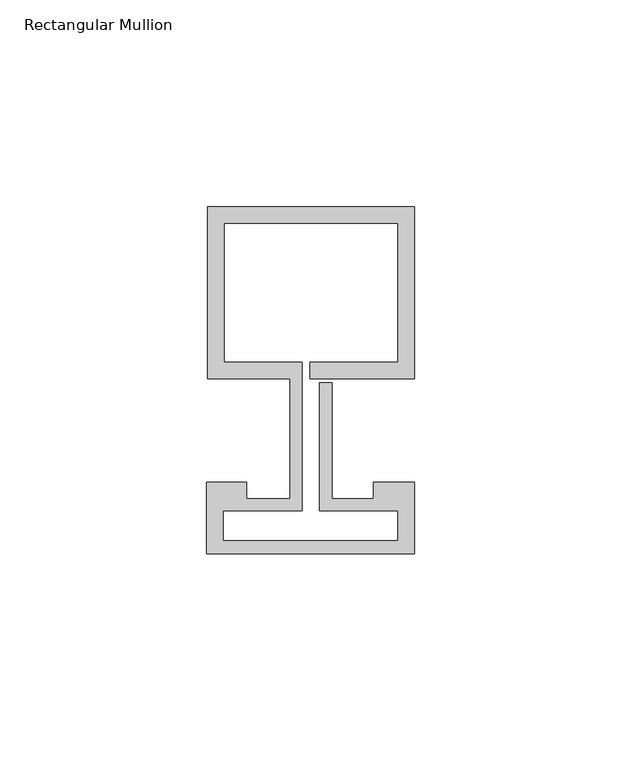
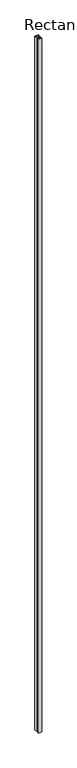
"""IFC4 building model written with IfcOpenShell, lengths in millimetres: member geometry, Rectangular Mullion : Reynaers_CW-50_Mullion-Transom_Vertical_41.5mm_Facecap-02B."""

from ifc_helpers import new_model, si_unit, frame, origin, place, context, project, spatial, polyline, outline, extrude, source, transform, mapped, element, save


def rectangular_mullion_28084158(model_context):
    return source(origin(), model_context, "Body", "SweptSolid", [
        extrude(outline(polyline([(-24.8004059, 54.0), (25.1995941, 54.0), (25.1995941, 12.5), (0.0, 12.5), (0.0, 16.5), (21.1995941, 16.5), (21.1995941, 50.0), (-20.8004059, 50.0), (-20.8004059, 16.5), (-1.9004059, 16.5), (-1.9004059, -19.5), (-20.994845, -19.5), (-20.994845, -26.7191338), (21.1995941, -26.7191338), (21.1995941, -19.5), (2.2995941, -19.5), (2.2995941, 11.5), (5.2995941, 11.5), (5.2995941, -16.5), (15.2996495, -16.5), (15.2996495, -12.5), (25.1995941, -12.5), (25.1995941, -29.8), (-24.994845, -29.8), (-24.994845, -12.5), (-15.2996495, -12.5), (-15.2996495, -16.5), (-4.9004059, -16.5), (-4.9004059, 12.5), (-24.8004059, 12.5), (-24.8004059, 54.0)])), frame((0.0, 0.0, -10400.0), z_axis=(0.0, 0.0, 1.0), x_axis=(1.0, 0.0, 0.0)), (0.0, 0.0, 1.0), 10400.0),
    ])


if __name__ == "__main__":
    model = new_model("IFC4")
    model_context = context("Model", 3, world=origin())
    ifc_project = project(units=[si_unit("LENGTHUNIT", "METRE", prefix="MILLI")], contexts=[model_context])
    site = spatial("IfcSite", under=ifc_project)
    building = spatial("IfcBuilding", under=site)
    placement = place(None, origin())
    rectangular_mullion_shape = rectangular_mullion_28084158(model_context)
    element("IfcMember", 1, ObjectType="Rectangular Mullion : Reynaers_CW-50_Mullion-Transom_Vertical_41.5mm_Facecap-02B", at=placement, inside=building, context=model_context, shape_type="MappedRepresentation", body=[
        mapped(rectangular_mullion_shape, transform((0.0, 0.0, 0.0), x_axis=(1.0, 0.0, 0.0), y_axis=(0.0, 1.0, 0.0), z_axis=(0.0, 0.0, 1.0))),
    ])
    save(model, "model.ifc")
